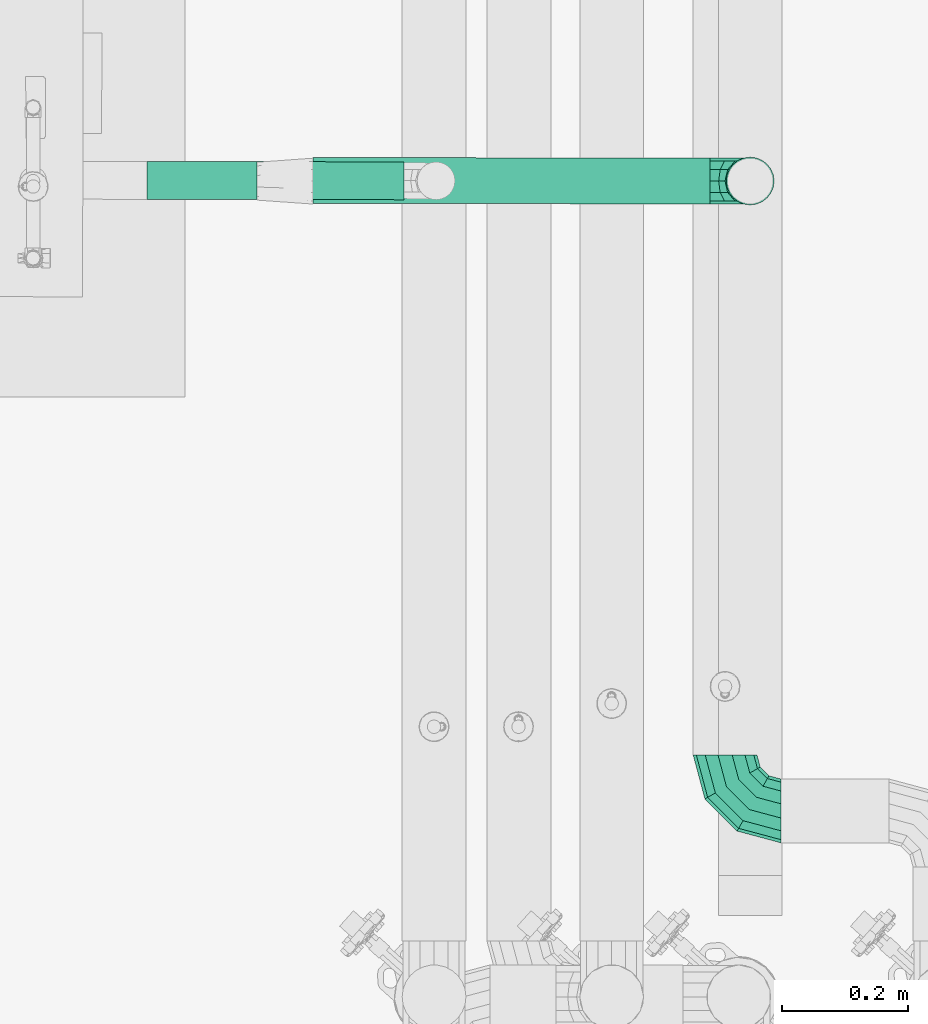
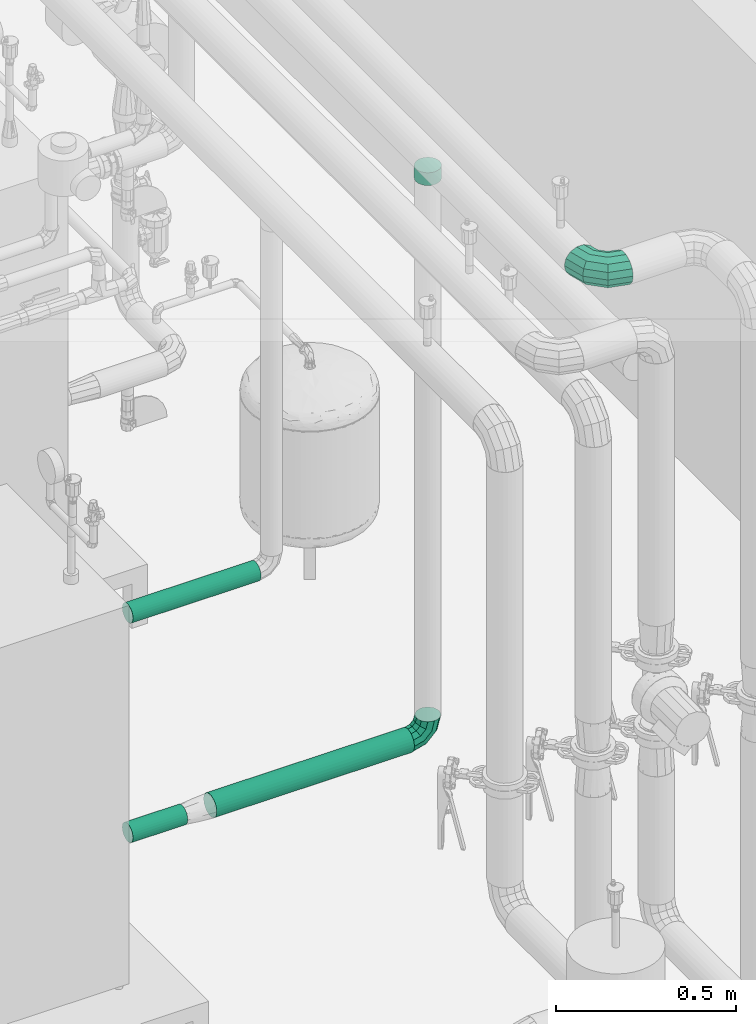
# One storey, part 13 of 43: 3 flow fittings, 3 flow segments.
"""IFC2X3 building model written with IfcOpenShell, lengths in millimetres."""

from ifc_helpers import new_model, entity, si_unit, converted_unit, derived_unit, direction, frame, frame_2d, origin, origin_2d_with_axis, place, context, subcontext, project, spatial, circle, extrude, faceted_brep, source, transform, mapped, material, material_list, type_object, type_shapes, element, save


model = new_model("IFC2X3")

# Units and contexts
model_context = context("Model", 3, precision=0.01, world=origin(), true_north=direction((6.123031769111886e-17, 1.0)))
body_context = subcontext(model_context, "Body", "Model", "MODEL_VIEW")
ifc_project = project(units=[si_unit("LENGTHUNIT", "METRE", prefix="MILLI"), si_unit("AREAUNIT", "SQUARE_METRE"), si_unit("VOLUMEUNIT", "CUBIC_METRE"), converted_unit("PLANEANGLEUNIT", "DEGREE", entity("IfcRatioMeasure", 0.017453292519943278), si_unit("PLANEANGLEUNIT", "RADIAN"), dimensions=[0, 0, 0, 0, 0, 0, 0]), si_unit("MASSUNIT", "GRAM", prefix="KILO"), derived_unit("MASSDENSITYUNIT", [(si_unit("MASSUNIT", "GRAM", prefix="KILO"), 1), (si_unit("LENGTHUNIT", "METRE"), -3)]), derived_unit("MOMENTOFINERTIAUNIT", [(si_unit("LENGTHUNIT", "METRE"), 4)]), si_unit("TIMEUNIT", "SECOND"), si_unit("FREQUENCYUNIT", "HERTZ"), si_unit("THERMODYNAMICTEMPERATUREUNIT", "DEGREE_CELSIUS"), derived_unit("THERMALTRANSMITTANCEUNIT", [(si_unit("MASSUNIT", "GRAM", prefix="KILO"), 1), (si_unit("THERMODYNAMICTEMPERATUREUNIT", "KELVIN"), -1), (si_unit("TIMEUNIT", "SECOND"), -3)]), derived_unit("VOLUMETRICFLOWRATEUNIT", [(si_unit("LENGTHUNIT", "METRE"), 3), (si_unit("TIMEUNIT", "SECOND"), -1)]), derived_unit("MASSFLOWRATEUNIT", [(si_unit("MASSUNIT", "GRAM", prefix="KILO"), 1), (si_unit("TIMEUNIT", "SECOND"), -1)]), derived_unit("ROTATIONALFREQUENCYUNIT", [(si_unit("TIMEUNIT", "SECOND"), -1)]), si_unit("ELECTRICCURRENTUNIT", "AMPERE"), si_unit("ELECTRICVOLTAGEUNIT", "VOLT"), si_unit("POWERUNIT", "WATT"), si_unit("FORCEUNIT", "NEWTON", prefix="KILO"), si_unit("ILLUMINANCEUNIT", "LUX"), si_unit("LUMINOUSFLUXUNIT", "LUMEN"), si_unit("LUMINOUSINTENSITYUNIT", "CANDELA"), derived_unit("USERDEFINED", [(si_unit("MASSUNIT", "GRAM", prefix="KILO"), -1), (si_unit("LENGTHUNIT", "METRE"), -2), (si_unit("TIMEUNIT", "SECOND"), 3), (si_unit("LUMINOUSFLUXUNIT", "LUMEN"), 1)]), derived_unit("SOUNDPOWERUNIT", [(si_unit("MASSUNIT", "GRAM", prefix="KILO"), 1), (si_unit("LENGTHUNIT", "METRE"), 2), (si_unit("TIMEUNIT", "SECOND"), -3)]), derived_unit("SOUNDPRESSUREUNIT", [(si_unit("MASSUNIT", "GRAM", prefix="KILO"), 1), (si_unit("LENGTHUNIT", "METRE"), -1), (si_unit("TIMEUNIT", "SECOND"), -2)]), derived_unit("LINEARVELOCITYUNIT", [(si_unit("LENGTHUNIT", "METRE"), 1), (si_unit("TIMEUNIT", "SECOND"), -1)]), si_unit("PRESSUREUNIT", "PASCAL"), derived_unit("USERDEFINED", [(si_unit("LENGTHUNIT", "METRE"), -2), (si_unit("MASSUNIT", "GRAM", prefix="KILO"), 1), (si_unit("TIMEUNIT", "SECOND"), -2)]), derived_unit("LINEARFORCEUNIT", [(si_unit("MASSUNIT", "GRAM", prefix="KILO"), 1), (si_unit("LENGTHUNIT", "METRE"), 1), (si_unit("TIMEUNIT", "SECOND"), -2), (si_unit("LENGTHUNIT", "METRE"), -1)]), derived_unit("PLANARFORCEUNIT", [(si_unit("MASSUNIT", "GRAM", prefix="KILO"), 1), (si_unit("LENGTHUNIT", "METRE"), 1), (si_unit("TIMEUNIT", "SECOND"), -2), (si_unit("LENGTHUNIT", "METRE"), -2)])], contexts=[model_context])

# Site, building, storey
site_placement = place(None, origin())
site = spatial("IfcSite", under=ifc_project, at=site_placement, Name="Default", CompositionType="ELEMENT")
building_placement = place(site_placement, origin())
building = spatial("IfcBuilding", under=site, at=building_placement, CompositionType="ELEMENT")
storey_placement = place(building_placement, frame((0.0, 0.0, 270.0)))
storey = spatial("IfcBuildingStorey", under=building, at=storey_placement, Name="Niveau 0", CompositionType="ELEMENT", Elevation=270.0)

# Flow segments
pipe_segment_type = type_object("IfcPipeSegmentType", Name="Canalisation:tube acier", PredefinedType="NOTDEFINED")
flow_segment_1_placement = place(storey_placement, origin())
element("IfcFlowSegment", 1, at=flow_segment_1_placement, inside=storey, type_object=pipe_segment_type, Name="Canalisation:tube acier", ObjectType="Canalisation:tube acier", context=body_context, shape_type="SweptSolid", body=[
    extrude(circle(Radius=36.5125, at=origin_2d_with_axis()), frame((-2696.264720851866, -11530.45446024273, 583.4999999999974), z_axis=(0.9999991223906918, -0.0013248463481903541, 0.0), x_axis=(-0.0013248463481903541, -0.9999991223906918, 0.0)), (0.0, 0.0, 1.0), 632.265322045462),
])
flow_segment_2_placement = place(storey_placement, origin())
element("IfcFlowSegment", 2, at=flow_segment_2_placement, inside=storey, type_object=pipe_segment_type, Name="Canalisation:tube acier", ObjectType="Canalisation:tube acier", context=body_context, shape_type="SweptSolid", body=[
    extrude(circle(Radius=30.162500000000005, at=origin_2d_with_axis()), frame((-2960.4355585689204, -11530.289687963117, 583.4999999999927), z_axis=(0.9999991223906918, -0.0013248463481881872, 0.0), x_axis=(-0.0013248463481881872, -0.9999991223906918, 0.0)), (0.0, 0.0, 1.0), 175.17082417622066),
])
flow_segment_3_placement = place(storey_placement, origin())
element("IfcFlowSegment", 3, at=flow_segment_3_placement, inside=storey, type_object=pipe_segment_type, Name="Canalisation:tube acier", ObjectType="Canalisation:tube acier", context=body_context, shape_type="SweptSolid", body=[
    extrude(circle(Radius=30.162500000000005, at=frame_2d((8.131733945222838e-16, 0.0), x_axis=(1.0, 0.0))), frame((-2960.4356896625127, -11530.388637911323, 1326.499999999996), z_axis=(0.9999988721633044, -0.001501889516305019, 0.0), x_axis=(-0.001501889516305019, -0.9999988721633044, 0.0)), (0.0, 0.0, 1.0), 409.4361291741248),
])

# Flow fittings
ifc_material = material(Name="<Unnamed>")
ifc_material_list_1 = material_list([ifc_material, ifc_material])
pipe_fitting_type_1 = type_object("IfcPipeFittingType", Name="Coude - Générique:Standard", PredefinedType="NOTDEFINED", material=ifc_material_list_1)
shared_shape_1 = source(origin(), body_context, "Body", "Brep", [
    faceted_brep([(32.07035144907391, 19.099999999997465, 0.0), (27.713566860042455, 21.615390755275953, -22.04129394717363), (45.76921848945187, 89.0, -22.04129394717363), (50.80000000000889, 89.0, 0.0), (15.506127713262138, 28.663359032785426, -39.71703930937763), (31.67328193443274, 89.0, -39.71703930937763), (-2.1341329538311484, 38.84796827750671, -49.52633793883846), (11.304063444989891, 89.0, -49.52633793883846), (-21.713345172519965, 50.15203172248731, -49.526337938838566), (-11.304063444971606, 89.0, -49.526337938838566), (-39.35360583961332, 60.33664096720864, -39.71703930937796), (-31.67328193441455, 89.0, -39.71703930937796), (-51.56104498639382, 67.3846092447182, -22.041293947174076), (-45.769218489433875, 89.0, -22.041293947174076), (-55.91782957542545, 69.89999999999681, 0.0), (-50.79999999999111, 89.0, 0.0), (-51.56104498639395, 67.38460924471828, 22.041293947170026), (-45.76921848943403, 89.0, 22.041293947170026), (-39.35360583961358, 60.33664096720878, 39.71703930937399), (-31.673281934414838, 89.0, 39.71703930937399), (-21.713345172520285, 50.15203172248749, 49.52633793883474), (-11.304063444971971, 89.0, 49.52633793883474), (-2.134132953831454, 38.84796827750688, 49.52633793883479), (11.304063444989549, 89.0, 49.52633793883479), (15.506127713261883, 28.663359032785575, 39.71703930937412), (31.673281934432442, 89.0, 39.71703930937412), (27.713566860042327, 21.615390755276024, 22.04129394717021), (45.76921848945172, 89.0, 22.04129394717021), (-19.099999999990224, -32.07035144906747, 0.0), (-21.61539075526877, -27.713566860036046, -22.04129394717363), (-28.663359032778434, -15.506127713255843, -39.71703930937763), (-38.847968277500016, 2.1341329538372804, -49.52633793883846), (-50.15203172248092, 21.71334517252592, -49.526337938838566), (-60.33664096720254, 39.35360583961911, -39.71703930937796), (-67.38460924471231, 51.56104498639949, -22.041293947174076), (-69.89999999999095, 55.91782957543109, 0.0), (-67.3846092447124, 51.56104498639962, 22.041293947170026), (-60.33664096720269, 39.353605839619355, 39.71703930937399), (-50.152031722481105, 21.71334517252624, 49.52633793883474), (-38.84796827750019, 2.134132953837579, 49.52633793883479), (-28.663359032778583, -15.506127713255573, 39.71703930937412), (-21.61539075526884, -27.713566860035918, 22.04129394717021), (-89.0, -50.80000000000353, 0.0), (-89.0, -45.769218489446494, -22.04129394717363), (-89.0, -31.673281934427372, -39.71703930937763), (-89.0, -11.304063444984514, -49.52633793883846), (-89.0, 11.304063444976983, -49.526337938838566), (-89.0, 31.673281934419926, -39.71703930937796), (-89.0, 45.769218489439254, -22.041293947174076), (-89.0, 50.79999999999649, 0.0), (-89.0, 45.76921848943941, 22.041293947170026), (-89.0, 31.673281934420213, 39.71703930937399), (-89.0, 11.304063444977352, 49.52633793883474), (-89.0, -11.304063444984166, 49.52633793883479), (-89.0, -31.673281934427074, 39.71703930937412), (-89.0, -45.76921848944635, 22.04129394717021)], [[[0, 1, 2, 3]], [[1, 4, 5, 2]], [[4, 6, 7, 5]], [[6, 8, 9, 7]], [[8, 10, 11, 9]], [[10, 12, 13, 11]], [[12, 14, 15, 13]], [[14, 16, 17, 15]], [[16, 18, 19, 17]], [[18, 20, 21, 19]], [[20, 22, 23, 21]], [[22, 24, 25, 23]], [[24, 26, 27, 25]], [[26, 0, 3, 27]], [[28, 29, 1, 0]], [[29, 30, 4, 1]], [[30, 31, 6, 4]], [[31, 32, 8, 6]], [[32, 33, 10, 8]], [[33, 34, 12, 10]], [[34, 35, 14, 12]], [[35, 36, 16, 14]], [[36, 37, 18, 16]], [[37, 38, 20, 18]], [[38, 39, 22, 20]], [[39, 40, 24, 22]], [[40, 41, 26, 24]], [[41, 28, 0, 26]], [[42, 43, 29, 28]], [[43, 44, 30, 29]], [[44, 45, 31, 30]], [[45, 46, 32, 31]], [[46, 47, 33, 32]], [[47, 48, 34, 33]], [[48, 49, 35, 34]], [[49, 50, 36, 35]], [[50, 51, 37, 36]], [[51, 52, 38, 37]], [[52, 53, 39, 38]], [[53, 54, 40, 39]], [[54, 55, 41, 40]], [[55, 42, 28, 41]], [[3, 2, 5, 7, 9, 11, 13, 15, 17, 19, 21, 23, 25, 27]], [[55, 54, 53, 52, 51, 50, 49, 48, 47, 46, 45, 44, 43, 42]]]),
])
type_shapes(pipe_fitting_type_1, [shared_shape_1])
flow_fitting_1_placement = place(storey_placement, frame((-2040.0, -12534.056656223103, 2751.9883586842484), z_axis=(0.0, 0.0, 1.0), x_axis=(0.0, -1.0, 0.0)))
element("IfcFlowFitting", 4, at=flow_fitting_1_placement, inside=storey, type_object=pipe_fitting_type_1, material=ifc_material, Name="Coude - Générique:Standard", ObjectType="Coude - Générique:Standard", context=body_context, shape_type="MappedRepresentation", body=[
    mapped(shared_shape_1, transform((0.0, 0.0, 0.0), scale=1.0)),
])
ifc_material_list_2 = material_list([ifc_material, ifc_material])
pipe_fitting_type_2 = type_object("IfcPipeFittingType", Name="Coude - Générique:Standard", PredefinedType="NOTDEFINED", material=ifc_material_list_2)
shared_shape_2 = source(origin(), body_context, "Body", "Brep", [
    faceted_brep([(23.03555308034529, 13.749999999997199, 0.0), (18.800625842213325, 16.19503638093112, -18.250000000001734), (31.60992723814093, 64.0, -18.250000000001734), (36.50000000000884, 64.0, 0.0), (7.230589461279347, 22.874999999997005, -31.609927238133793), (18.250000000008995, 64.0, -31.609927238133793), (-8.574374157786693, 32.0, -36.50000000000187), (0.0, 64.0, -36.50000000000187), (-24.379337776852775, 41.12499999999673, -31.609927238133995), (-18.249999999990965, 64.0, -31.609927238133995), (-35.94937415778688, 47.8049636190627, -18.250000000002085), (-31.609927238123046, 64.0, -18.250000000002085), (-40.184301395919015, 50.24999999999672, 0.0), (-36.49999999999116, 64.0, 0.0), (-35.949374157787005, 47.80496361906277, 18.249999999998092), (-31.609927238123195, 64.0, 18.249999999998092), (-24.37933777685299, 41.12499999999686, 31.609927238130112), (-18.249999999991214, 64.0, 31.609927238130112), (-8.574374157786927, 32.0, 36.49999999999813), (0.0, 64.0, 36.49999999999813), (7.2305894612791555, 22.87499999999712, 31.609927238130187), (18.250000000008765, 64.0, 31.609927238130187), (18.80062584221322, 16.195036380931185, 18.24999999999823), (31.6099272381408, 64.0, 18.24999999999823), (-13.749999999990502, -23.035553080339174, 0.0), (-16.1950363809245, -18.80062584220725, -18.250000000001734), (-22.874999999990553, -7.230589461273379, -31.609927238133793), (-32.0, 8.574374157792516, -36.50000000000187), (-41.124999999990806, 24.379337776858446, -31.609927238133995), (-47.804963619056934, 35.94937415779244, -18.250000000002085), (-50.24999999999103, 40.18430139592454, 0.0), (-47.80496361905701, 35.94937415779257, 18.249999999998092), (-41.12499999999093, 24.37933777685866, 31.609927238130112), (-32.0, 8.574374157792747, 36.49999999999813), (-22.874999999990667, -7.23058946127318, 31.609927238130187), (-16.195036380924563, -18.800625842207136, 18.24999999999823), (-64.0, -36.50000000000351, 0.0), (-64.0, -31.609927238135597, -18.250000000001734), (-64.0, -18.250000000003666, -31.609927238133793), (-64.0, 0.0, -36.50000000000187), (-64.0, 18.249999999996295, -31.609927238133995), (-64.0, 31.60992723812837, -18.250000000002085), (-64.0, 36.49999999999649, 0.0), (-64.0, 31.60992723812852, 18.249999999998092), (-64.0, 18.249999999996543, 31.609927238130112), (-64.0, 0.0, 36.49999999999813), (-64.0, -18.25000000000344, 31.609927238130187), (-64.0, -31.60992723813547, 18.24999999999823)], [[[0, 1, 2, 3]], [[1, 4, 5, 2]], [[4, 6, 7, 5]], [[6, 8, 9, 7]], [[8, 10, 11, 9]], [[10, 12, 13, 11]], [[12, 14, 15, 13]], [[14, 16, 17, 15]], [[16, 18, 19, 17]], [[18, 20, 21, 19]], [[20, 22, 23, 21]], [[22, 0, 3, 23]], [[24, 25, 1, 0]], [[25, 26, 4, 1]], [[26, 27, 6, 4]], [[27, 28, 8, 6]], [[28, 29, 10, 8]], [[29, 30, 12, 10]], [[30, 31, 14, 12]], [[31, 32, 16, 14]], [[32, 33, 18, 16]], [[33, 34, 20, 18]], [[34, 35, 22, 20]], [[35, 24, 0, 22]], [[36, 37, 25, 24]], [[37, 38, 26, 25]], [[38, 39, 27, 26]], [[39, 40, 28, 27]], [[40, 41, 29, 28]], [[41, 42, 30, 29]], [[42, 43, 31, 30]], [[43, 44, 32, 31]], [[44, 45, 33, 32]], [[45, 46, 34, 33]], [[46, 47, 35, 34]], [[47, 36, 24, 35]], [[3, 2, 5, 7, 9, 11, 13, 15, 17, 19, 21, 23]], [[47, 46, 45, 44, 43, 42, 41, 40, 39, 38, 37, 36]]]),
])
type_shapes(pipe_fitting_type_2, [shared_shape_2])
flow_fitting_2_placement = place(storey_placement, frame((-2000.0, -11531.369107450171, 583.5000000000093), z_axis=(-0.0012030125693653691, -0.9999992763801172, 0.0), x_axis=(0.9999992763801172, -0.0012030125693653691, 0.0)))
element("IfcFlowFitting", 5, at=flow_fitting_2_placement, inside=storey, type_object=pipe_fitting_type_2, material=ifc_material, Name="Coude - Générique:Standard", ObjectType="Coude - Générique:Standard", context=body_context, shape_type="MappedRepresentation", body=[
    mapped(shared_shape_2, transform((0.0, 0.0, 0.0), scale=1.0)),
])
pipe_fitting_type_3 = type_object("IfcPipeFittingType", Name="Piquage Acier Noir droit:Longueur = 25", PredefinedType="NOTDEFINED", material=ifc_material)
shared_shape_3 = source(origin(), body_context, "Body", "Brep", [
    faceted_brep([(-17.85256265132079, -26.90541302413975, -26.905413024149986), (-17.852562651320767, -32.9522666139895, -19.02500000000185), (-17.852562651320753, -36.753477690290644, -9.848064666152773), (-17.85256265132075, -38.0499999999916, 0.0), (-17.852562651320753, -36.75347769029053, 9.848064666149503), (-17.852562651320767, -32.95226661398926, 19.02499999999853), (-17.85256265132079, -26.905413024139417, 26.905413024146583), (-17.852562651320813, -19.02499999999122, 32.952266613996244), (-17.852562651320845, -9.848064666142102, 36.75347769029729), (-17.852562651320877, 0.0, 38.04999999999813), (-17.852562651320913, 9.848064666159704, 36.753477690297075), (-17.85256265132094, 19.025000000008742, 32.952266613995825), (-17.85256265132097, 26.90541302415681, 26.905413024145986), (-17.85256265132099, 32.95226661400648, 19.0249999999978), (-17.852562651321, 36.75347769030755, 9.84806466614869), (-17.852562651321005, 38.0500000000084, 0.0), (-17.852562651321, 36.75347769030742, -9.848064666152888), (-17.85256265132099, 32.95226661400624, -19.025000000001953), (-17.85256265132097, 26.905413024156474, -26.905413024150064), (-17.85256265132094, 19.025000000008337, -32.952266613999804), (-17.852562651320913, 9.848064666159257, -36.75347769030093), (-17.852562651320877, 0.0, -38.05000000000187), (-17.852562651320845, -9.848064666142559, -36.753477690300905), (-17.852562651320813, -19.024999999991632, -32.95226661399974), (0.0, 38.05000000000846, 0.0), (0.0, 36.753477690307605, 9.84806466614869), (25.0, 36.75347769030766, 9.84806466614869), (25.0, 38.05000000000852, 0.0), (0.0, 32.95226661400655, 19.0249999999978), (25.0, 32.9522666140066, 19.0249999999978), (0.0, 19.025000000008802, 32.952266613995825), (25.0, 19.025000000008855, 32.952266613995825), (25.0, 26.905413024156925, 26.905413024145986), (0.0, 26.905413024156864, 26.905413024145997), (0.0, 9.848064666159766, 36.753477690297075), (25.0, 9.84806466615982, 36.753477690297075), (0.0, 0.0, 38.04999999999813), (25.0, 0.0, 38.04999999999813), (0.0, -9.84806466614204, 36.75347769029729), (0.0, -19.024999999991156, 32.952266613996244), (25.0, -19.024999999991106, 32.952266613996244), (25.0, -9.848064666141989, 36.75347769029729), (0.0, -26.905413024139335, 26.905413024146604), (25.0, -26.905413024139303, 26.905413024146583), (0.0, -36.75347769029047, 9.848064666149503), (25.0, -36.75347769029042, 9.848064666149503), (25.0, -32.952266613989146, 19.02499999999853), (0.0, -32.9522666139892, 19.02499999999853), (0.0, -38.04999999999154, 0.0), (25.0, -38.049999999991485, 0.0), (0.0, -36.75347769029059, -9.84806466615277), (25.0, -36.75347769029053, -9.848064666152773), (0.0, -32.952266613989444, -19.025000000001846), (25.0, -32.95226661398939, -19.02500000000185), (0.0, -19.024999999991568, -32.95226661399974), (25.0, -19.02499999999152, -32.95226661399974), (25.0, -26.905413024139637, -26.905413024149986), (0.0, -26.905413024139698, -26.90541302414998), (0.0, -9.848064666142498, -36.753477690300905), (25.0, -9.848064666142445, -36.753477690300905), (0.0, 0.0, -38.05000000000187), (25.0, 0.0, -38.05000000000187), (0.0, 9.848064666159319, -36.75347769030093), (0.0, 19.025000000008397, -32.952266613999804), (25.0, 19.02500000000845, -32.952266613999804), (25.0, 9.84806466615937, -36.75347769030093), (0.0, 26.905413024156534, -26.905413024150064), (25.0, 26.905413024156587, -26.905413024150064), (0.0, 36.75347769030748, -9.848064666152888), (25.0, 36.753477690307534, -9.848064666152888), (25.0, 32.95226661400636, -19.025000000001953), (0.0, 32.952266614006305, -19.025000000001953)], [[[0, 1, 2, 3, 4, 5, 6, 7, 8, 9, 10, 11, 12, 13, 14, 15, 16, 17, 18, 19, 20, 21, 22, 23]], [[24, 15, 14, 25, 26, 27]], [[25, 14, 13, 28, 29, 26]], [[30, 31, 32, 33, 12, 11]], [[13, 12, 33, 32, 29, 28]], [[34, 35, 31, 30, 11, 10]], [[9, 36, 37, 35, 34, 10]], [[38, 8, 7, 39, 40, 41]], [[39, 7, 6, 42, 43, 40]], [[44, 45, 46, 47, 5, 4]], [[6, 5, 47, 46, 43, 42]], [[48, 49, 45, 44, 4, 3]], [[38, 41, 37, 36, 9, 8]], [[48, 3, 2, 50, 51, 49]], [[50, 2, 1, 52, 53, 51]], [[54, 55, 56, 57, 0, 23]], [[1, 0, 57, 56, 53, 52]], [[58, 59, 55, 54, 23, 22]], [[21, 60, 61, 59, 58, 22]], [[62, 20, 19, 63, 64, 65]], [[63, 19, 18, 66, 67, 64]], [[68, 69, 70, 71, 17, 16]], [[18, 17, 71, 70, 67, 66]], [[24, 27, 69, 68, 16, 15]], [[62, 65, 61, 60, 21, 20]], [[59, 61, 65, 64, 67, 70, 69, 27, 26, 29, 32, 31, 35, 37, 41, 40, 43, 46, 45, 49, 51, 53, 56, 55]]]),
])
type_shapes(pipe_fitting_type_3, [shared_shape_3])
flow_fitting_3_placement = place(storey_placement, frame((-2000.0, -11531.369107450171, 2488.7537184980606), z_axis=(0.0, -1.0, 0.0), x_axis=(0.0, 0.0, -1.0)))
element("IfcFlowFitting", 6, at=flow_fitting_3_placement, inside=storey, type_object=pipe_fitting_type_3, material=ifc_material, Name="Piquage Acier Noir droit:Longueur = 25", ObjectType="Piquage Acier Noir droit:Longueur = 25", context=body_context, shape_type="MappedRepresentation", body=[
    mapped(shared_shape_3, transform((0.0, 0.0, 0.0), scale=1.0)),
])

save(model, "model.ifc")
